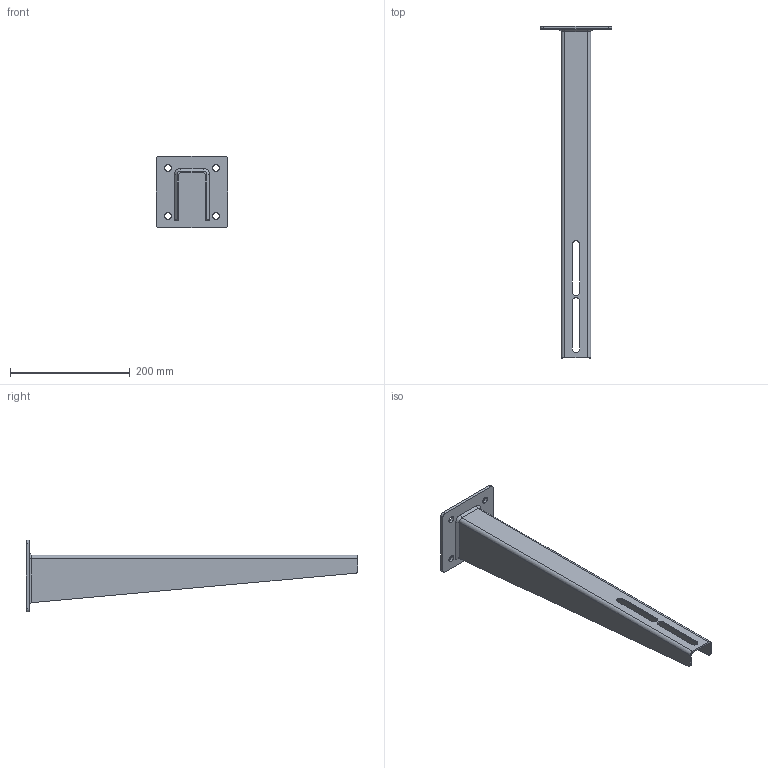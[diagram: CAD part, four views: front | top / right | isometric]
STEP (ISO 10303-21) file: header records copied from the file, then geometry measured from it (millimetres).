
FILE_DESCRIPTION((''),'2;1');
FILE_NAME('ST50-REGLABLE_SOUDEE_405-500_ASM','2020-01-15T',('Patrick'),(''),'PRO/ENGINEER BY PARAMETRIC TECHNOLOGY CORPORATION, 2016100','PRO/ENGINEER BY PARAMETRIC TECHNOLOGY CORPORATION, 2016100','');
FILE_SCHEMA(('CONFIG_CONTROL_DESIGN'));
Length unit declared in the file: millimetre
Products named in the file (3): ST50-001_REPA; TOLE_SUPPORT_ST50-REGL_405-500; ST50-REGLABLE_SOUDEE_405-500_ASM
Assembly tree (2 placements, depth 2):
  ST50-REGLABLE_SOUDEE_405-500_ASM
    ST50-001_REPA
    TOLE_SUPPORT_ST50-REGL_405-500
Bounding box: 120 x 555 x 120 mm (x, y, z)
Volume: 311166.9 mm3; surface area: 198546.9 mm2
Topology: 2 solids, 3 shells, 61 faces, 156 edges, 100 vertices
Faces by surface type: plane 33, cylinder 26, cone 2
Entity records: 1946 total; most frequent: DIRECTION 340, CARTESIAN_POINT 328, ORIENTED_EDGE 294, EDGE_CURVE 156, AXIS2_PLACEMENT_3D 120, VECTOR 100, LINE 100, VERTEX_POINT 100
